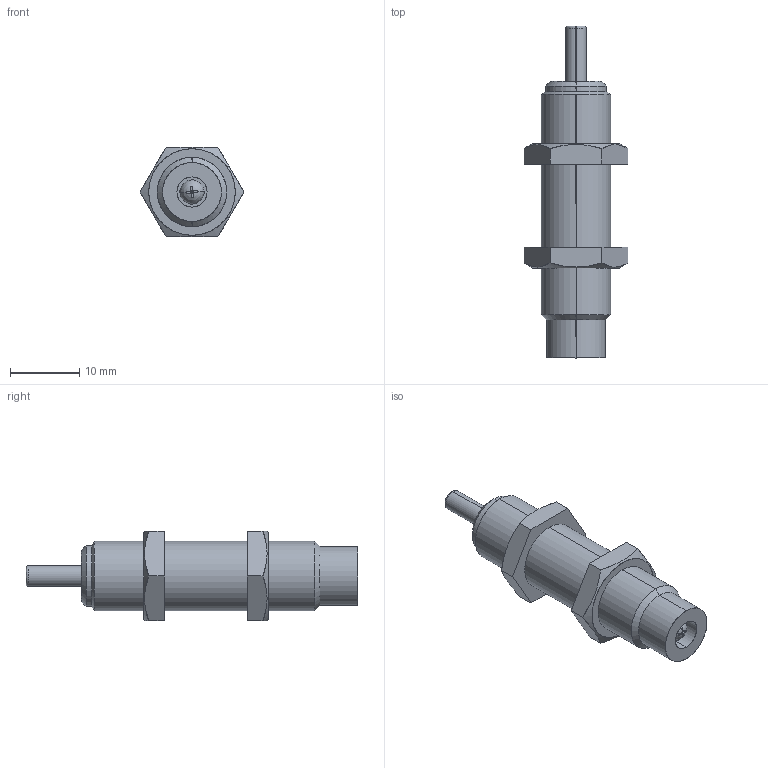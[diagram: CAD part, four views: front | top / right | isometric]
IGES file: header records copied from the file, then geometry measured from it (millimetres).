
Start section: SolidWorks IGES file using analytic representation for surfaces
Bounding box: 15.01 x 48 x 13 mm (x, y, z)
Surface area: 2211.4 mm2 (no closed solid volume)
Topology: 0 solids, 0 shells, 61 faces, 846 edges, 846 vertices
Faces by surface type: bspline 35, revolution 26
